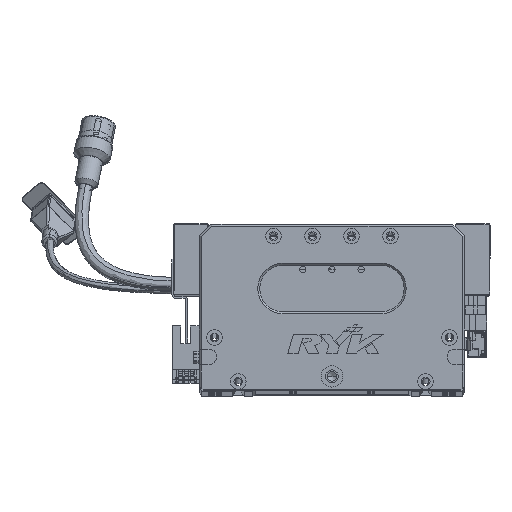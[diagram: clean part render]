
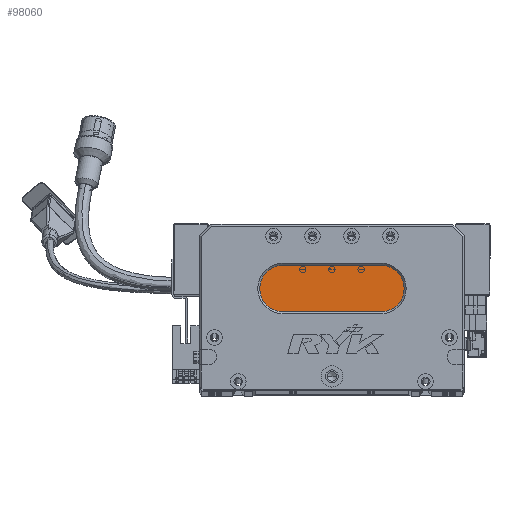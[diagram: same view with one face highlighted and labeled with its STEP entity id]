
A CAD part, top view. The second image highlights one B-rep face of the part: STEP entity #98060.
In plain terms, the highlighted planar face has unit normal (0, 0, 1) as drawn and (0, 0, -1) by its records, which use the part's own axes.
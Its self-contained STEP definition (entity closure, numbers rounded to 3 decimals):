
#1964 = CIRCLE ( 'NONE', #2430, 12. ) ;
#2430 = AXIS2_PLACEMENT_3D ( 'NONE', #32359, #87115, #10029 ) ;
#3980 = DIRECTION ( 'NONE',  ( -1., 0., 0. ) ) ;
#4301 = DIRECTION ( 'NONE',  ( 0., 0., -1. ) ) ;
#5087 = VERTEX_POINT ( 'NONE', #80650 ) ;
#5943 = EDGE_CURVE ( 'NONE', #5087, #10858, #1964, .T. ) ;
#6802 = CIRCLE ( 'NONE', #11329, 12. ) ;
#10029 = DIRECTION ( 'NONE',  ( -1., 0., 0. ) ) ;
#10411 = CARTESIAN_POINT ( 'NONE',  ( 93., 40., 13. ) ) ;
#10839 = EDGE_CURVE ( 'NONE', #10858, #50527, #36136, .T. ) ;
#10858 = VERTEX_POINT ( 'NONE', #80692 ) ;
#11329 = AXIS2_PLACEMENT_3D ( 'NONE', #96875, #57533, #33889 ) ;
#12503 = ORIENTED_EDGE ( 'NONE', *, *, #41145, .T. ) ;
#13375 = LINE ( 'NONE', #10411, #97910 ) ;
#17717 = EDGE_CURVE ( 'NONE', #45578, #26982, #13375, .T. ) ;
#18134 = ORIENTED_EDGE ( 'NONE', *, *, #51194, .T. ) ;
#19044 = CARTESIAN_POINT ( 'NONE',  ( 43., 40., 13. ) ) ;
#23720 = AXIS2_PLACEMENT_3D ( 'NONE', #50913, #4301, #3980 ) ;
#25107 = DIRECTION ( 'NONE',  ( -1., 0., 0. ) ) ;
#26157 = EDGE_LOOP ( 'NONE', ( #12503, #75087, #18134, #66626, #51841 ) ) ;
#26982 = VERTEX_POINT ( 'NONE', #19044 ) ;
#31824 = CARTESIAN_POINT ( 'NONE',  ( 93., 40., 13. ) ) ;
#32359 = CARTESIAN_POINT ( 'NONE',  ( 43., 52., 13. ) ) ;
#33889 = DIRECTION ( 'NONE',  ( -1., 0., 0. ) ) ;
#34134 = CARTESIAN_POINT ( 'NONE',  ( 93., 64., 13. ) ) ;
#34868 = VECTOR ( 'NONE', #81371, 1000. ) ;
#36136 = LINE ( 'NONE', #34134, #34868 ) ;
#41145 = EDGE_CURVE ( 'NONE', #50527, #45578, #89693, .T. ) ;
#45578 = VERTEX_POINT ( 'NONE', #31824 ) ;
#48528 = DIRECTION ( 'NONE',  ( 0., 0., -1. ) ) ;
#50527 = VERTEX_POINT ( 'NONE', #55270 ) ;
#50913 = CARTESIAN_POINT ( 'NONE',  ( 93., 52., 13. ) ) ;
#51194 = EDGE_CURVE ( 'NONE', #26982, #5087, #6802, .T. ) ;
#51841 = ORIENTED_EDGE ( 'NONE', *, *, #10839, .T. ) ;
#55270 = CARTESIAN_POINT ( 'NONE',  ( 93., 64., 13. ) ) ;
#55349 = AXIS2_PLACEMENT_3D ( 'NONE', #55403, #48528, #63293 ) ;
#55403 = CARTESIAN_POINT ( 'NONE',  ( 93., 52., 13. ) ) ;
#56415 = PLANE ( 'NONE',  #55349 ) ;
#57533 = DIRECTION ( 'NONE',  ( 0., 0., -1. ) ) ;
#63293 = DIRECTION ( 'NONE',  ( -1., 0., 0. ) ) ;
#66626 = ORIENTED_EDGE ( 'NONE', *, *, #5943, .T. ) ;
#75087 = ORIENTED_EDGE ( 'NONE', *, *, #17717, .T. ) ;
#80650 = CARTESIAN_POINT ( 'NONE',  ( 31., 52., 13. ) ) ;
#80692 = CARTESIAN_POINT ( 'NONE',  ( 43., 64., 13. ) ) ;
#81371 = DIRECTION ( 'NONE',  ( 1., 0., 0. ) ) ;
#87115 = DIRECTION ( 'NONE',  ( 0., 0., -1. ) ) ;
#89693 = CIRCLE ( 'NONE', #23720, 12. ) ;
#90070 = FACE_OUTER_BOUND ( 'NONE', #26157, .T. ) ;
#96875 = CARTESIAN_POINT ( 'NONE',  ( 43., 52., 13. ) ) ;
#97910 = VECTOR ( 'NONE', #25107, 1000. ) ;
#98060 = ADVANCED_FACE ( 'NONE', ( #90070 ), #56415, .T. ) ;
